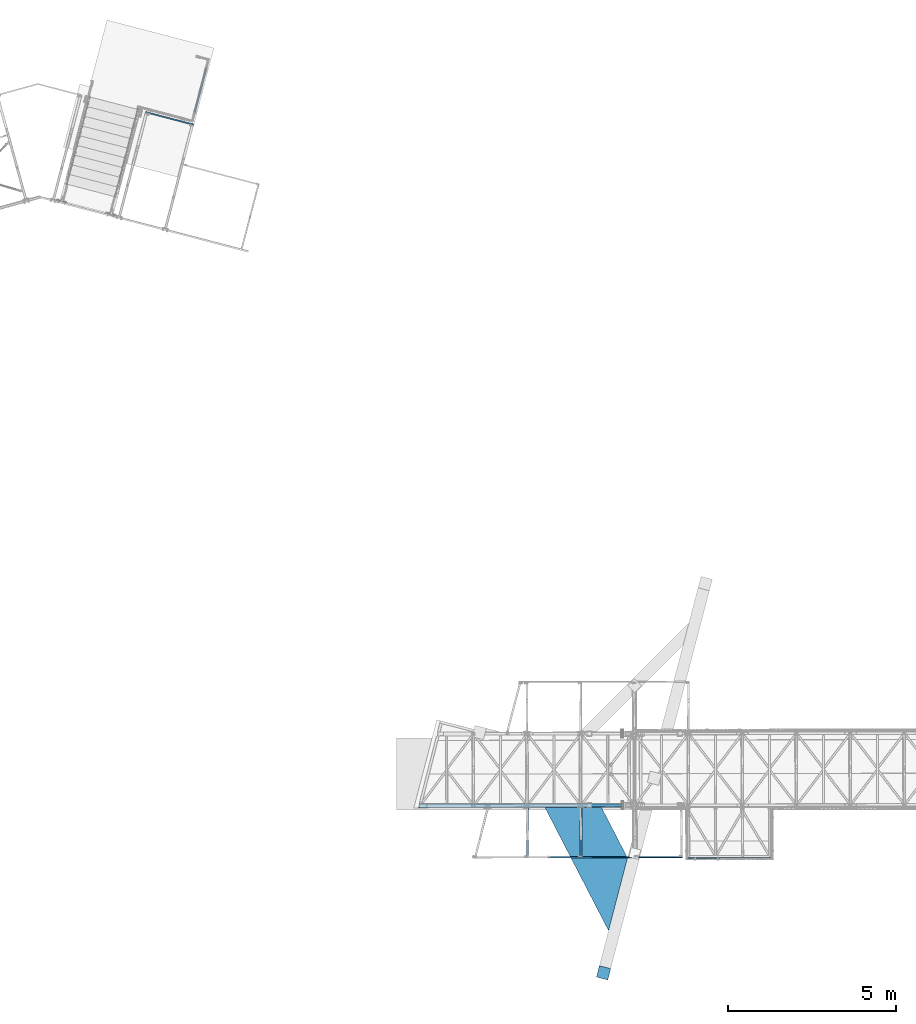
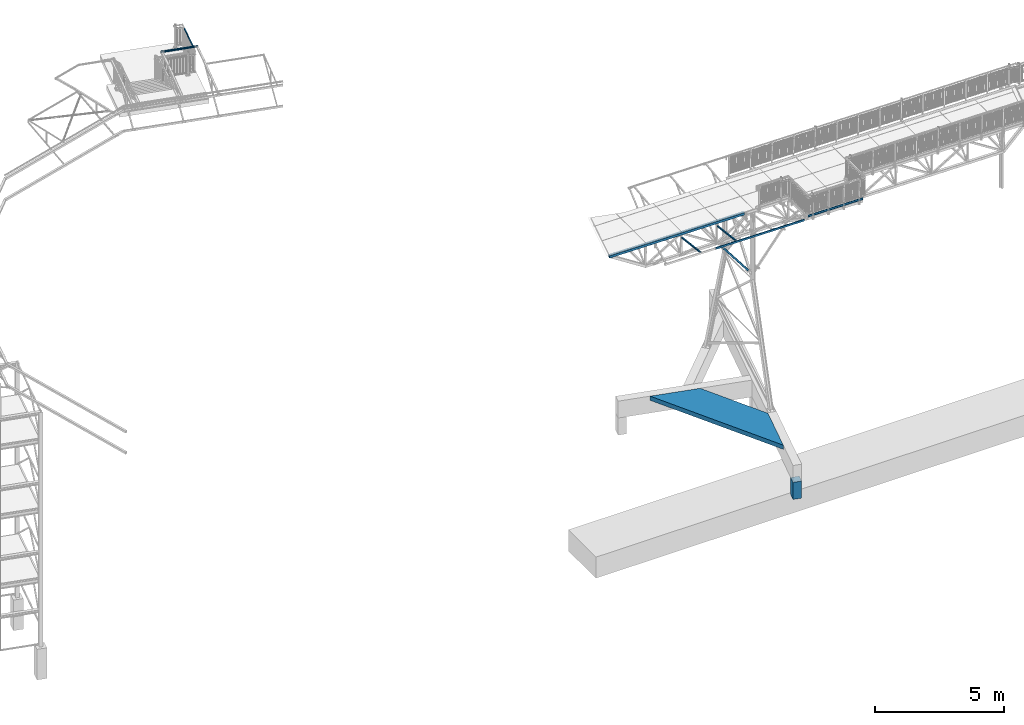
# One storey, part 15 of 169: 9 beams, 1 member, 10 elements without a shape of their own.
"""IFC2X3 building model written with IfcOpenShell, lengths in millimetres."""

from ifc_helpers import new_model, si_unit, frame, origin_with_axes, origin_2d_with_axis, place, context, subcontext, project, spatial, polyline, rectangle, hollow_rectangle, u_section, outline, extrude, boolean, clip, halfspace, material, type_object, element, aggregate, save


model = new_model("IFC2X3")

# Units and contexts
model_context = context("Model", 3, precision=1e-05, world=origin_with_axes())
body_context = subcontext(model_context, "Body", "Model", "MODEL_VIEW")
ifc_project = project(units=[si_unit("LENGTHUNIT", "METRE", prefix="MILLI"), si_unit("AREAUNIT", "SQUARE_METRE"), si_unit("VOLUMEUNIT", "CUBIC_METRE"), si_unit("MASSUNIT", "GRAM", prefix="KILO"), si_unit("TIMEUNIT", "SECOND"), si_unit("PLANEANGLEUNIT", "RADIAN"), si_unit("SOLIDANGLEUNIT", "STERADIAN"), si_unit("THERMODYNAMICTEMPERATUREUNIT", "DEGREE_CELSIUS"), si_unit("LUMINOUSINTENSITYUNIT", "LUMEN")], contexts=[model_context])

# Site, building, storey
site_placement = place(None, origin_with_axes())
site = spatial("IfcSite", under=ifc_project, at=site_placement, Name="Undefined", CompositionType="ELEMENT")
building_placement = place(site_placement, origin_with_axes())
building = spatial("IfcBuilding", under=site, at=building_placement, Name="Undefined", CompositionType="ELEMENT")
storey_placement = place(building_placement, origin_with_axes())
storey = spatial("IfcBuildingStorey", under=building, at=storey_placement, Name="Undefined", CompositionType="ELEMENT", Elevation=0.0)

# Assembly, beam
assembly_1_placement = place(storey_placement, origin_with_axes())
assembly_1 = element("IfcElementAssembly", 1, at=assembly_1_placement, inside=storey, Name="Steel Assembly", AssemblyPlace="NOTDEFINED", PredefinedType="RIGID_FRAME")
ifc_material_1 = material(Name="STEEL/S355")
beam_type_1 = type_object("IfcBeamType", Name="C80*40*3", PredefinedType="NOTDEFINED")
beam_1_placement = place(assembly_1_placement, frame((7555.50285870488, -1426.22314138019, 13851.1789591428), z_axis=(0.0124056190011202, 0.117622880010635, 0.992980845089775), x_axis=(-0.999917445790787, -0.00186469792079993, 0.0127131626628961)))
beam_1 = element("IfcBeam", 2, at=beam_1_placement, type_object=beam_type_1, material=ifc_material_1, Name="BEAM", ObjectType="C80*40*3", context=body_context, shape_type="Clipping", body=[
    clip(extrude(u_section(Depth=80.0, FlangeWidth=40.0, WebThickness=3.0, FlangeThickness=3.0, FilletRadius=4.5, at=origin_2d_with_axis()), frame((3989.99999998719, -9.09494701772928e-13, 1.83283249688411e-12), z_axis=(-1.0, -3.46944695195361e-18, -1.38777878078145e-17), x_axis=(1.73472347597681e-18, -1.0, 0.0)), (0.0, 0.0, 1.0), 3990.0), halfspace(frame((3989.99999997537, 6.77573552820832e-11, -39.9999999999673), z_axis=(-1.0, -3.46944695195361e-18, -1.38777878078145e-17), x_axis=(0.0, 1.0, 0.0)), True)),
])
aggregate(assembly_1, [beam_1])

assembly_2_placement = place(storey_placement, origin_with_axes())
assembly_2 = element("IfcElementAssembly", 3, at=assembly_2_placement, inside=storey, Name="Steel Assembly", AssemblyPlace="NOTDEFINED", PredefinedType="RIGID_FRAME")
ifc_material_2 = material(Name="STEEL/S235")
beam_2_placement = place(assembly_2_placement, frame((-7023.32346144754, 20417.2874842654, 13950.4176071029), z_axis=(-2.54700353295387e-10, 0.0, -1.0), x_axis=(-0.967563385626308, 0.252628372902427, -1.72000000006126e-07)))
beam_2 = element("IfcBeam", 4, at=beam_2_placement, type_object=beam_type_1, material=ifc_material_2, Name="BEAM", ObjectType="C80*40*3", context=body_context, shape_type="SweptSolid", body=[
    extrude(u_section(Depth=80.0, FlangeWidth=40.0, WebThickness=3.0, FlangeThickness=3.0, FilletRadius=4.5, at=origin_2d_with_axis()), frame((1499.99999998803, 0.0, -1.81898940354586e-12), z_axis=(-1.0, -3.46944695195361e-18, -1.38777878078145e-17), x_axis=(1.73472347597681e-18, -1.0, 0.0)), (0.0, 0.0, 1.0), 1500.0),
])
aggregate(assembly_2, [beam_2])

assembly_3_placement = place(storey_placement, origin_with_axes())
assembly_3 = element("IfcElementAssembly", 5, at=assembly_3_placement, inside=storey, Name="Steel Assembly", AssemblyPlace="NOTDEFINED", PredefinedType="RIGID_FRAME")
ifc_material_3 = material(Name="STEEL/S235JR")
beam_type_2 = type_object("IfcBeamType", Name="C100*20*2", PredefinedType="NOTDEFINED")
beam_3_placement = place(assembly_3_placement, frame((7706.91555162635, -1455.61633072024, 13996.3340812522), z_axis=(0.012713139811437, 2.3750999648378e-05, 0.999919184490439), x_axis=(0.9999174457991, 0.00186469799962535, -0.0127131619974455)))
beam_3 = element("IfcBeam", 6, at=beam_3_placement, type_object=beam_type_2, material=ifc_material_3, Name="KICK_PLATE", ObjectType="C100*20*2", context=body_context, shape_type="SweptSolid", body=[
    extrude(u_section(Depth=100.0, FlangeWidth=20.0, WebThickness=2.0, FlangeThickness=2.0, FilletRadius=3.0, at=origin_2d_with_axis()), frame((2475.50000061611, -3.35078153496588e-16, 0.0), z_axis=(-1.0, -3.46944695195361e-18, -1.38777878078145e-17), x_axis=(1.73472347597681e-18, -1.0, 0.0)), (0.0, 0.0, 1.0), 2475.5),
])
aggregate(assembly_3, [beam_3])

assembly_4_placement = place(storey_placement, origin_with_axes())
assembly_4 = element("IfcElementAssembly", 7, at=assembly_4_placement, inside=storey, Name="Steel Assembly", AssemblyPlace="NOTDEFINED", PredefinedType="RIGID_FRAME")
beam_type_3 = type_object("IfcBeamType", Name="SHS60*3", PredefinedType="NOTDEFINED")
beam_4_placement = place(assembly_4_placement, frame((4519.33797207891, 69.9139748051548, 13722.0147726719), z_axis=(-0.999917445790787, -0.00186469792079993, 0.0127131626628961), x_axis=(0.00334696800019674, -0.99305658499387, 0.117590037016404)))
beam_4 = element("IfcBeam", 8, at=beam_4_placement, type_object=beam_type_3, material=ifc_material_1, Name="BEAM", ObjectType="SHS60*3", context=body_context, shape_type="Clipping", body=[
    clip(clip(extrude(hollow_rectangle(XDim=60.0, YDim=60.0, WallThickness=3.0, InnerFilletRadius=3.0, OuterFilletRadius=6.0, at=origin_2d_with_axis()), frame((1470.09918379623, 3.65838053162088e-12, 0.0), z_axis=(-1.0, -3.46944695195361e-18, -1.38777878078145e-17), x_axis=(1.73472347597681e-18, -1.0, 0.0)), (0.0, 0.0, 1.0), 1471.63), halfspace(frame((1470.10105978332, 29.9999999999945, 1.26819941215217e-08), z_axis=(-0.999999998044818, 6.25329077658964e-05, 1.2350028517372e-10), x_axis=(0.0, 0.0, 1.0)), True)), halfspace(frame((9.53820160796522, 7.09405867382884e-11, -29.9999999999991), z_axis=(0.993061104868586, -0.117599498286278, -1.22644835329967e-10), x_axis=(-0.117599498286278, -0.993061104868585, 2.09305653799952e-10)), True)),
])
aggregate(assembly_4, [beam_4])

assembly_5_placement = place(storey_placement, origin_with_axes())
assembly_5 = element("IfcElementAssembly", 9, at=assembly_5_placement, inside=storey, Name="Steel Assembly", AssemblyPlace="NOTDEFINED", PredefinedType="RIGID_FRAME")
beam_5_placement = place(assembly_5_placement, frame((2917.95483975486, 66.9276317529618, 13742.3750963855), z_axis=(-0.999917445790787, -0.00186469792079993, 0.0127131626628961), x_axis=(0.00334696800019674, -0.99305658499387, 0.117590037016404)))
beam_5 = element("IfcBeam", 10, at=beam_5_placement, type_object=beam_type_3, material=ifc_material_1, Name="BEAM", ObjectType="SHS60*3", context=body_context, shape_type="Clipping", body=[
    clip(clip(extrude(hollow_rectangle(XDim=60.0, YDim=60.0, WallThickness=3.0, InnerFilletRadius=3.0, OuterFilletRadius=6.0, at=origin_2d_with_axis()), frame((1470.09918379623, 3.65838053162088e-12, 0.0), z_axis=(-1.0, -3.46944695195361e-18, -1.38777878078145e-17), x_axis=(1.73472347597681e-18, -1.0, 0.0)), (0.0, 0.0, 1.0), 1471.63), halfspace(frame((1470.10105978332, 29.9999999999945, 1.26819941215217e-08), z_axis=(-0.999999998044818, 6.25329077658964e-05, 1.2350028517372e-10), x_axis=(0.0, 0.0, 1.0)), True)), halfspace(frame((9.53820160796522, 7.09405867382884e-11, -29.9999999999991), z_axis=(0.993061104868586, -0.117599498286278, -1.22644835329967e-10), x_axis=(-0.117599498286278, -0.993061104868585, 2.09305653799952e-10)), True)),
])
aggregate(assembly_5, [beam_5])

assembly_6_placement = place(storey_placement, origin_with_axes())
assembly_6 = element("IfcElementAssembly", 11, at=assembly_6_placement, inside=storey, Name="Steel Assembly", AssemblyPlace="NOTDEFINED", PredefinedType="RIGID_FRAME")
beam_type_4 = type_object("IfcBeamType", Name="RHS120*4", PredefinedType="NOTDEFINED")
beam_6_placement = place(assembly_6_placement, frame((-392.633066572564, 104.28194073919, 13959.2647304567), z_axis=(0.00186484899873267, -0.999998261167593, 4.28757666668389e-08), x_axis=(0.9999174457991, 0.00186469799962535, -0.0127131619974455)))
beam_6 = element("IfcBeam", 12, at=beam_6_placement, type_object=beam_type_4, material=ifc_material_1, Name="BEAM", ObjectType="RHS120*4", context=body_context, shape_type="Clipping", body=[
    clip(clip(extrude(hollow_rectangle(XDim=120.0, YDim=120.0, WallThickness=4.0, InnerFilletRadius=4.0, OuterFilletRadius=8.0, at=origin_2d_with_axis()), frame((6123.50022031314, 1.80836682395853e-12, -1.49432233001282e-14), z_axis=(-1.0, -3.46944695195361e-18, -1.38777878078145e-17), x_axis=(1.73472347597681e-18, -1.0, 0.0)), (0.0, 0.0, 1.0), 6123.5), halfspace(frame((84.1439707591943, 59.999999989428, -60.0000000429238), z_axis=(-0.968414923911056, 2.19610681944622e-10, -0.249344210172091), x_axis=(-0.249344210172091, 2.31048033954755e-11, 0.968414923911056)), False)), halfspace(frame((6123.50022056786, 9.07675712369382e-10, -1000.0), z_axis=(-1.0, -3.46944695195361e-18, -1.38777878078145e-17), x_axis=(0.0, 1.0, 0.0)), True)),
])
aggregate(assembly_6, [beam_6])

assembly_7_placement = place(storey_placement, origin_with_axes())
assembly_7 = element("IfcElementAssembly", 13, at=assembly_7_placement, inside=storey, Name="Steel Assembly", AssemblyPlace="NOTDEFINED", PredefinedType="RIGID_FRAME")
beam_type_5 = type_object("IfcBeamType", Name="RHS50*3", PredefinedType="NOTDEFINED")
beam_7_placement = place(assembly_7_placement, frame((-7002.49836604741, 20793.9355221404, 13640.4183763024), z_axis=(-0.967563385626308, 0.252628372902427, -1.72000000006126e-07), x_axis=(0.252628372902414, 0.967563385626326, 0.0)))
beam_7 = element("IfcBeam", 14, at=beam_7_placement, type_object=beam_type_5, material=ifc_material_2, Name="PORĘCZ", ObjectType="RHS50*3", context=body_context, shape_type="SweptSolid", body=[
    extrude(hollow_rectangle(XDim=50.0, YDim=50.0, WallThickness=3.0, InnerFilletRadius=3.0, OuterFilletRadius=6.0, at=origin_2d_with_axis()), frame((1348.00922447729, 1.81898940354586e-12, -7.48295439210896e-14), z_axis=(-1.0, -3.46944695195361e-18, -1.38777878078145e-17), x_axis=(1.73472347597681e-18, -1.0, 0.0)), (0.0, 0.0, 1.0), 1348.01),
])
aggregate(assembly_7, [beam_7])

# Assembly, member
assembly_8_placement = place(storey_placement, origin_with_axes())
assembly_8 = element("IfcElementAssembly", 15, at=assembly_8_placement, inside=storey, Name="Steel Assembly", AssemblyPlace="NOTDEFINED", PredefinedType="RIGID_FRAME")
member_type = type_object("IfcMemberType", Name="K80/4", PredefinedType="NOTDEFINED")
member_placement = place(assembly_8_placement, frame((5915.14489965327, 116.045014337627, 11114.755091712), z_axis=(-0.792353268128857, -0.00147761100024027, -0.610060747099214), x_axis=(-0.610059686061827, -0.00113766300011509, 0.792354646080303)))
member = element("IfcMember", 16, at=member_placement, type_object=member_type, material=ifc_material_1, Name="BEAM", ObjectType="K80/4", context=body_context, shape_type="Clipping", body=[
    clip(clip(extrude(hollow_rectangle(XDim=80.0, YDim=80.0, WallThickness=4.0, InnerFilletRadius=4.0, OuterFilletRadius=8.0, at=origin_2d_with_axis()), frame((1853.73526368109, -4.54666440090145e-13, -1.02902978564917e-13), z_axis=(-1.0, -3.46944695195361e-18, -1.38777878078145e-17), x_axis=(1.73472347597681e-18, -1.0, 0.0)), (0.0, 0.0, 1.0), 1837.24), halfspace(frame((1853.73526369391, 2.95585778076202e-11, -40.0000000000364), z_axis=(-1.0, -3.46944695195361e-18, -1.38777878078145e-17), x_axis=(0.0, 1.0, 0.0)), True)), halfspace(frame((16.5000003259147, 3.71528585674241e-10, -1000.00000000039), z_axis=(1.0, 0.0, 0.0), x_axis=(1.73472347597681e-18, -1.0, 0.0)), True)),
])
aggregate(assembly_8, [member])

# Assembly, beam
assembly_9_placement = place(storey_placement, origin_with_axes())
assembly_9 = element("IfcElementAssembly", 17, at=assembly_9_placement, inside=storey, Name="BEAM", AssemblyPlace="NOTDEFINED", PredefinedType="REINFORCEMENT_UNIT")
ifc_material_4 = material(Name="CONCRETE/C45/55")
beam_type_6 = type_object("IfcBeamType", Name="350*350", PredefinedType="NOTDEFINED")
beam_8_placement = place(assembly_9_placement, frame((5195.01860934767, -4879.3729310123, 4480.41805558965), z_axis=(0.967563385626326, -0.252628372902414, 0.0), x_axis=(-2.54700353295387e-10, 0.0, -1.0)))
beam_8 = element("IfcBeam", 18, at=beam_8_placement, type_object=beam_type_6, material=ifc_material_4, Name="BEAM", ObjectType="350*350", context=body_context, shape_type="SweptSolid", body=[
    extrude(rectangle(XDim=350.0, YDim=350.0, at=origin_2d_with_axis()), frame((810.00000000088, 3.93634573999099e-21, 0.0), z_axis=(-1.0, -3.46944695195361e-18, -1.38777878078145e-17), x_axis=(1.73472347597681e-18, -1.0, 0.0)), (0.0, 0.0, 1.0), 810.0),
])
aggregate(assembly_9, [beam_8])

assembly_10_placement = place(storey_placement, origin_with_axes())
assembly_10 = element("IfcElementAssembly", 19, at=assembly_10_placement, inside=storey, Name="BEAM", AssemblyPlace="NOTDEFINED", PredefinedType="REINFORCEMENT_UNIT")
beam_type_7 = type_object("IfcBeamType", Name="200*1500", PredefinedType="NOTDEFINED")
beam_9_placement = place(assembly_10_placement, frame((3023.04505333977, 2503.84614399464, 5180.4173749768), z_axis=(0.0, 0.0, 1.0), x_axis=(0.458832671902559, -0.888522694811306, 1.14999999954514e-07)))
beam_9 = element("IfcBeam", 20, at=beam_9_placement, type_object=beam_type_7, material=ifc_material_4, Name="BEAM", ObjectType="200*1500", context=body_context, shape_type="CSG", body=[
    boolean("DIFFERENCE", boolean("DIFFERENCE", extrude(rectangle(XDim=1500.0, YDim=200.0, at=origin_2d_with_axis()), frame((6734.52843754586, -2.58203065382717e-13, -8.91307417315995e-20), z_axis=(-1.0, -3.46944695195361e-18, -1.38777878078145e-17), x_axis=(1.73472347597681e-18, -1.0, 0.0)), (0.0, 0.0, 1.0), 6734.53), extrude(outline(polyline([(0.0, 0.0), (6175.00000000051, -4.40741132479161e-08), (6175.00000000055, 2099.99999995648), (9.40609879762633e-07, 1174.99963374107), (0.0, 0.0)])), frame((2977.03005201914, 2422.51711081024, -103.000001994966), z_axis=(0.0, 0.0, 1.0), x_axis=(0.743787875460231, -0.668415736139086, 4.58408377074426e-10)), (0.0, 0.0, 1.0), 206.0)), extrude(outline(polyline([(0.0, 0.0), (5749.99999995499, 3.48049979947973e-08), (5749.99999995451, 2200.00000003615), (3.41854502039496e-07, 2200.00000003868), (0.0, 0.0)])), frame((-502.252045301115, -1710.9101704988, -102.999995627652), z_axis=(0.0, 0.0, 1.0), x_axis=(0.668415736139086, 0.743787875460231, -1.55871205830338e-09)), (0.0, 0.0, 1.0), 206.0)),
])
aggregate(assembly_10, [beam_9])

save(model, "model.ifc")
